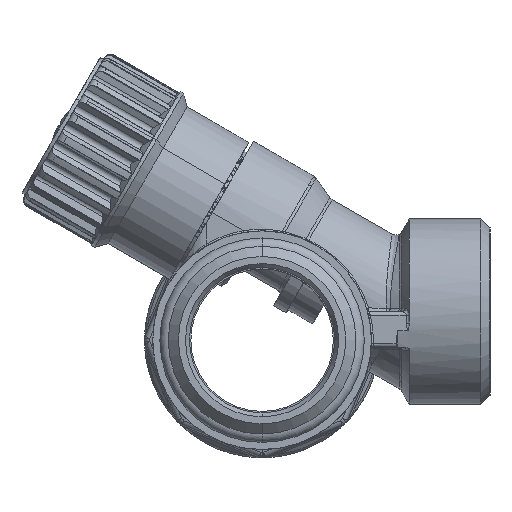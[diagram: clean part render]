
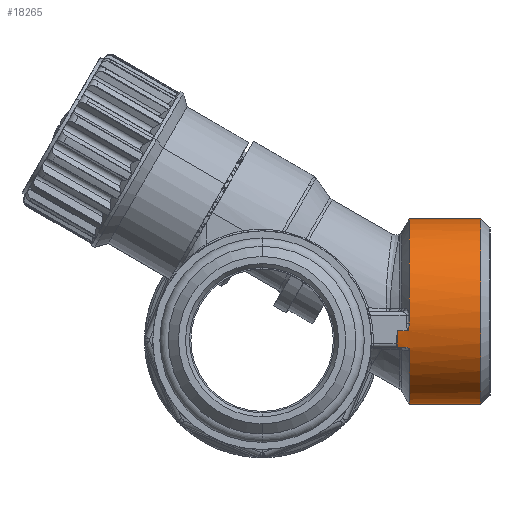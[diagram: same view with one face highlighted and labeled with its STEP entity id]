
A CAD part, left-side view. The second image highlights one B-rep face of the part: STEP entity #18265.
In plain terms, the highlighted cylindrical face has radius 13.025 mm (diameter 26.05 mm), a partial arc.
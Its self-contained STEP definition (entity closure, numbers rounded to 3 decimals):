
#121 = DIRECTION ( 'NONE',  ( 0., 0., -1. ) ) ;
#395 = CARTESIAN_POINT ( 'NONE',  ( 12.75, -75., 1.338 ) ) ;
#760 = VERTEX_POINT ( 'NONE', #18606 ) ;
#1531 = CIRCLE ( 'NONE', #22139, 13.025 ) ;
#1557 = CARTESIAN_POINT ( 'NONE',  ( 13.645, -20.668, -1.396 ) ) ;
#3108 = EDGE_CURVE ( 'NONE', #7512, #8882, #43051, .T. ) ;
#3513 = EDGE_CURVE ( 'NONE', #9242, #50817, #28471, .T. ) ;
#3954 = B_SPLINE_CURVE_WITH_KNOTS ( 'NONE', 3,
 ( #45610, #54606, #16105, #33246, #50388, #21149, #47273 ),
 .UNSPECIFIED., .F., .F.,
 ( 4, 3, 4 ),
 ( 0., 0., 0.001 ),
 .UNSPECIFIED. ) ;
#4351 = DIRECTION ( 'NONE',  ( 0., 0., -1. ) ) ;
#5341 = CARTESIAN_POINT ( 'NONE',  ( 12.75, -20.413, 1.338 ) ) ;
#6192 = ORIENTED_EDGE ( 'NONE', *, *, #15813, .T. ) ;
#6990 = EDGE_CURVE ( 'NONE', #760, #19843, #14131, .T. ) ;
#7029 = LINE ( 'NONE', #49976, #38753 ) ;
#7512 = VERTEX_POINT ( 'NONE', #26295 ) ;
#7625 = CYLINDRICAL_SURFACE ( 'NONE', #11946, 13.025 ) ;
#8382 = ORIENTED_EDGE ( 'NONE', *, *, #6990, .F. ) ;
#8882 = VERTEX_POINT ( 'NONE', #48630 ) ;
#8987 = CARTESIAN_POINT ( 'NONE',  ( 12.742, -20.476, 1.376 ) ) ;
#9060 = DIRECTION ( 'NONE',  ( 0., -1., 0. ) ) ;
#9242 = VERTEX_POINT ( 'NONE', #33077 ) ;
#9253 = EDGE_CURVE ( 'NONE', #23243, #19843, #28862, .T. ) ;
#10661 = DIRECTION ( 'NONE',  ( 0., -1., 0. ) ) ;
#10952 = EDGE_CURVE ( 'NONE', #7512, #26673, #1531, .T. ) ;
#11946 = AXIS2_PLACEMENT_3D ( 'NONE', #12098, #42160, #32884 ) ;
#12098 = CARTESIAN_POINT ( 'NONE',  ( 25.5, -75., 4. ) ) ;
#12224 = CARTESIAN_POINT ( 'NONE',  ( 13.473, -19., -1. ) ) ;
#12927 = CARTESIAN_POINT ( 'NONE',  ( 12.748, -20.437, 1.347 ) ) ;
#12992 = DIRECTION ( 'NONE',  ( 0., -1., 0. ) ) ;
#13035 = CARTESIAN_POINT ( 'NONE',  ( 25.5, -20.668, 4. ) ) ;
#13630 = VERTEX_POINT ( 'NONE', #33790 ) ;
#14131 = CIRCLE ( 'NONE', #15032, 13.025 ) ;
#14328 = DIRECTION ( 'NONE',  ( 0., 0., -1. ) ) ;
#14817 = EDGE_CURVE ( 'NONE', #9242, #23243, #43241, .T. ) ;
#15032 = AXIS2_PLACEMENT_3D ( 'NONE', #18543, #19383, #14328 ) ;
#15101 = CARTESIAN_POINT ( 'NONE',  ( 25.5, -75., -9.025 ) ) ;
#15813 = EDGE_CURVE ( 'NONE', #13630, #27714, #51424, .T. ) ;
#16105 = CARTESIAN_POINT ( 'NONE',  ( 12.543, -20.665, 2.663 ) ) ;
#16755 = EDGE_LOOP ( 'NONE', ( #24073, #6192, #41829, #45079, #52463, #26895, #48173, #38526, #17318, #27842, #8382 ) ) ;
#17222 = CARTESIAN_POINT ( 'NONE',  ( 12.574, -20.658, 2.396 ) ) ;
#17318 = ORIENTED_EDGE ( 'NONE', *, *, #14817, .T. ) ;
#17732 = CARTESIAN_POINT ( 'NONE',  ( 25.5, -19., 4. ) ) ;
#18231 = CARTESIAN_POINT ( 'NONE',  ( 12.738, -20.491, 1.395 ) ) ;
#18265 = ADVANCED_FACE ( 'NONE', ( #54523 ), #7625, .T. ) ;
#18543 = CARTESIAN_POINT ( 'NONE',  ( 25.5, -30.725, 4. ) ) ;
#18606 = CARTESIAN_POINT ( 'NONE',  ( 25.5, -30.725, 17.025 ) ) ;
#19383 = DIRECTION ( 'NONE',  ( 0., -1., 0. ) ) ;
#19843 = VERTEX_POINT ( 'NONE', #30461 ) ;
#19927 = LINE ( 'NONE', #28913, #39382 ) ;
#21149 = CARTESIAN_POINT ( 'NONE',  ( 12.508, -20.668, 3.066 ) ) ;
#21337 = CARTESIAN_POINT ( 'NONE',  ( 12.574, -20.658, 2.396 ) ) ;
#21701 = VECTOR ( 'NONE', #9060, 1000. ) ;
#22139 = AXIS2_PLACEMENT_3D ( 'NONE', #17732, #12992, #121 ) ;
#22597 = AXIS2_PLACEMENT_3D ( 'NONE', #26278, #43980, #25715 ) ;
#23243 = VERTEX_POINT ( 'NONE', #32013 ) ;
#24073 = ORIENTED_EDGE ( 'NONE', *, *, #37241, .F. ) ;
#24638 = DIRECTION ( 'NONE',  ( 0., -1., 0. ) ) ;
#25654 = DIRECTION ( 'NONE',  ( 0., -1., 0. ) ) ;
#25715 = DIRECTION ( 'NONE',  ( 0., 0., -1. ) ) ;
#26278 = CARTESIAN_POINT ( 'NONE',  ( 25.5, -20.668, 4. ) ) ;
#26295 = CARTESIAN_POINT ( 'NONE',  ( 12.75, -19., 1.338 ) ) ;
#26641 = CARTESIAN_POINT ( 'NONE',  ( 12.75, -20.389, 1.338 ) ) ;
#26673 = VERTEX_POINT ( 'NONE', #12224 ) ;
#26895 = ORIENTED_EDGE ( 'NONE', *, *, #10952, .T. ) ;
#27354 = CARTESIAN_POINT ( 'NONE',  ( 13.487, -20.445, -1.035 ) ) ;
#27714 = VERTEX_POINT ( 'NONE', #38023 ) ;
#27842 = ORIENTED_EDGE ( 'NONE', *, *, #9253, .T. ) ;
#28471 = B_SPLINE_CURVE_WITH_KNOTS ( 'NONE', 3,
 ( #1557, #35237, #52391, #43954, #31287, #27354, #35500, #48991 ),
 .UNSPECIFIED., .F., .F.,
 ( 4, 2, 2, 4 ),
 ( 0., 0., 0., 0.001 ),
 .UNSPECIFIED. ) ;
#28862 = LINE ( 'NONE', #15101, #50282 ) ;
#28913 = CARTESIAN_POINT ( 'NONE',  ( 13.473, -75., -1. ) ) ;
#30043 = CARTESIAN_POINT ( 'NONE',  ( 12.726, -20.53, 1.455 ) ) ;
#30308 = CARTESIAN_POINT ( 'NONE',  ( 13.473, -20.206, -1. ) ) ;
#30461 = CARTESIAN_POINT ( 'NONE',  ( 25.5, -30.725, -9.025 ) ) ;
#30493 = VERTEX_POINT ( 'NONE', #17222 ) ;
#30947 = EDGE_CURVE ( 'NONE', #26673, #50817, #19927, .T. ) ;
#31287 = CARTESIAN_POINT ( 'NONE',  ( 13.533, -20.576, -1.143 ) ) ;
#32013 = CARTESIAN_POINT ( 'NONE',  ( 25.5, -20.668, -9.025 ) ) ;
#32884 = DIRECTION ( 'NONE',  ( 0., 0., -1. ) ) ;
#33077 = CARTESIAN_POINT ( 'NONE',  ( 13.645, -20.668, -1.396 ) ) ;
#33246 = CARTESIAN_POINT ( 'NONE',  ( 12.531, -20.666, 2.798 ) ) ;
#33790 = CARTESIAN_POINT ( 'NONE',  ( 25.5, -20.668, 17.025 ) ) ;
#34430 = EDGE_CURVE ( 'NONE', #8882, #30493, #44900, .T. ) ;
#34805 = CARTESIAN_POINT ( 'NONE',  ( 12.717, -20.547, 1.5 ) ) ;
#35237 = CARTESIAN_POINT ( 'NONE',  ( 13.621, -20.668, -1.342 ) ) ;
#35368 = CARTESIAN_POINT ( 'NONE',  ( 12.674, -20.604, 1.73 ) ) ;
#35500 = CARTESIAN_POINT ( 'NONE',  ( 13.473, -20.325, -1. ) ) ;
#35987 = EDGE_CURVE ( 'NONE', #30493, #27714, #3954, .T. ) ;
#36787 = DIRECTION ( 'NONE',  ( 0., -1., 0. ) ) ;
#37241 = EDGE_CURVE ( 'NONE', #13630, #760, #7029, .T. ) ;
#38023 = CARTESIAN_POINT ( 'NONE',  ( 12.5, -20.668, 3.201 ) ) ;
#38526 = ORIENTED_EDGE ( 'NONE', *, *, #3513, .F. ) ;
#38753 = VECTOR ( 'NONE', #36787, 1000. ) ;
#39382 = VECTOR ( 'NONE', #10661, 1000. ) ;
#41829 = ORIENTED_EDGE ( 'NONE', *, *, #35987, .F. ) ;
#42160 = DIRECTION ( 'NONE',  ( 0., -1., 0. ) ) ;
#42977 = CARTESIAN_POINT ( 'NONE',  ( 12.691, -20.589, 1.636 ) ) ;
#43051 = LINE ( 'NONE', #395, #21701 ) ;
#43241 = CIRCLE ( 'NONE', #22597, 13.025 ) ;
#43954 = CARTESIAN_POINT ( 'NONE',  ( 13.553, -20.611, -1.189 ) ) ;
#43980 = DIRECTION ( 'NONE',  ( 0., -1., 0. ) ) ;
#44226 = AXIS2_PLACEMENT_3D ( 'NONE', #13035, #25654, #4351 ) ;
#44900 = B_SPLINE_CURVE_WITH_KNOTS ( 'NONE', 3,
 ( #26641, #5341, #12927, #8987, #18231, #30043, #34805, #42977, #35368, #51965, #47183, #21337 ),
 .UNSPECIFIED., .F., .F.,
 ( 4, 2, 2, 2, 2, 4 ),
 ( 0., 0., 0., 0., 0.001, 0.001 ),
 .UNSPECIFIED. ) ;
#45079 = ORIENTED_EDGE ( 'NONE', *, *, #34430, .F. ) ;
#45610 = CARTESIAN_POINT ( 'NONE',  ( 12.574, -20.658, 2.396 ) ) ;
#47183 = CARTESIAN_POINT ( 'NONE',  ( 12.598, -20.651, 2.204 ) ) ;
#47273 = CARTESIAN_POINT ( 'NONE',  ( 12.5, -20.668, 3.201 ) ) ;
#48173 = ORIENTED_EDGE ( 'NONE', *, *, #30947, .T. ) ;
#48630 = CARTESIAN_POINT ( 'NONE',  ( 12.75, -20.389, 1.338 ) ) ;
#48991 = CARTESIAN_POINT ( 'NONE',  ( 13.473, -20.206, -1. ) ) ;
#49976 = CARTESIAN_POINT ( 'NONE',  ( 25.5, -75., 17.025 ) ) ;
#50282 = VECTOR ( 'NONE', #24638, 1000. ) ;
#50388 = CARTESIAN_POINT ( 'NONE',  ( 12.518, -20.668, 2.932 ) ) ;
#50817 = VERTEX_POINT ( 'NONE', #30308 ) ;
#51424 = CIRCLE ( 'NONE', #44226, 13.025 ) ;
#51965 = CARTESIAN_POINT ( 'NONE',  ( 12.626, -20.642, 2.013 ) ) ;
#52391 = CARTESIAN_POINT ( 'NONE',  ( 13.597, -20.657, -1.289 ) ) ;
#52463 = ORIENTED_EDGE ( 'NONE', *, *, #3108, .F. ) ;
#54523 = FACE_OUTER_BOUND ( 'NONE', #16755, .T. ) ;
#54606 = CARTESIAN_POINT ( 'NONE',  ( 12.558, -20.663, 2.529 ) ) ;
